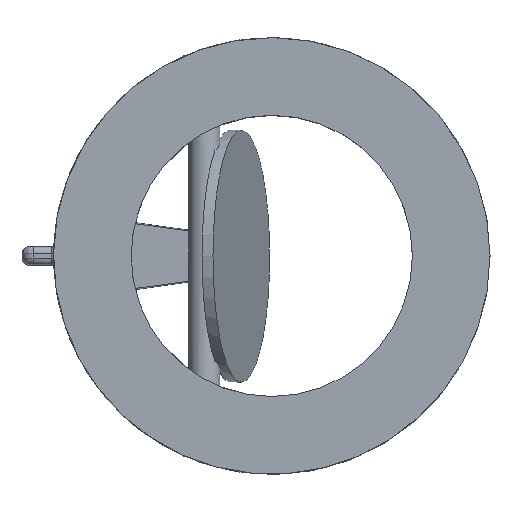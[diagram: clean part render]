
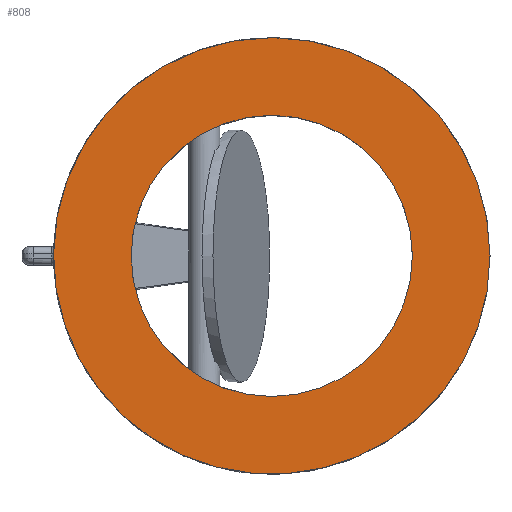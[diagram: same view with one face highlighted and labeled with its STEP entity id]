
A CAD part, top view. The second image highlights one B-rep face of the part: STEP entity #808.
In plain terms, the highlighted planar face has unit normal (0, 0, 1).
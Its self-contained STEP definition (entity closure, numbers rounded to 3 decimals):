
#808 = ADVANCED_FACE( '', ( #1664, #1665 ), #1666, .F. );
#1664 = FACE_OUTER_BOUND( '', #9645, .T. );
#1665 = FACE_BOUND( '', #9646, .T. );
#1666 = PLANE( '', #9647 );
#9645 = EDGE_LOOP( '', ( #11859 ) );
#9646 = EDGE_LOOP( '', ( #11860 ) );
#9647 = AXIS2_PLACEMENT_3D( '', #11861, #11862, #11863 );
#11859 = ORIENTED_EDGE( '', *, *, #12854, .F. );
#11860 = ORIENTED_EDGE( '', *, *, #12647, .F. );
#11861 = CARTESIAN_POINT( '', ( 0., 0., 35. ) );
#11862 = DIRECTION( '', ( 0., 0., -1. ) );
#11863 = DIRECTION( '', ( -1., 0., 0. ) );
#12647 = EDGE_CURVE( '', #13994, #13994, #13995, .T. );
#12854 = EDGE_CURVE( '', #14236, #14236, #14237, .T. );
#13994 = VERTEX_POINT( '', #20299 );
#13995 = CIRCLE( '', #20300, 62.5 );
#14236 = VERTEX_POINT( '', #21871 );
#14237 = CIRCLE( '', #21872, 97. );
#20299 = CARTESIAN_POINT( '', ( 0., -62.5, 35. ) );
#20300 = AXIS2_PLACEMENT_3D( '', #22238, #22239, #22240 );
#21871 = CARTESIAN_POINT( '', ( 97., 0., 35. ) );
#21872 = AXIS2_PLACEMENT_3D( '', #22275, #22276, #22277 );
#22238 = CARTESIAN_POINT( '', ( 0., 0., 35. ) );
#22239 = DIRECTION( '', ( 0., 0., 1. ) );
#22240 = DIRECTION( '', ( 0., -1., 0. ) );
#22275 = CARTESIAN_POINT( '', ( 0., 0., 35. ) );
#22276 = DIRECTION( '', ( 0., 0., -1. ) );
#22277 = DIRECTION( '', ( 1., 0., 0. ) );
